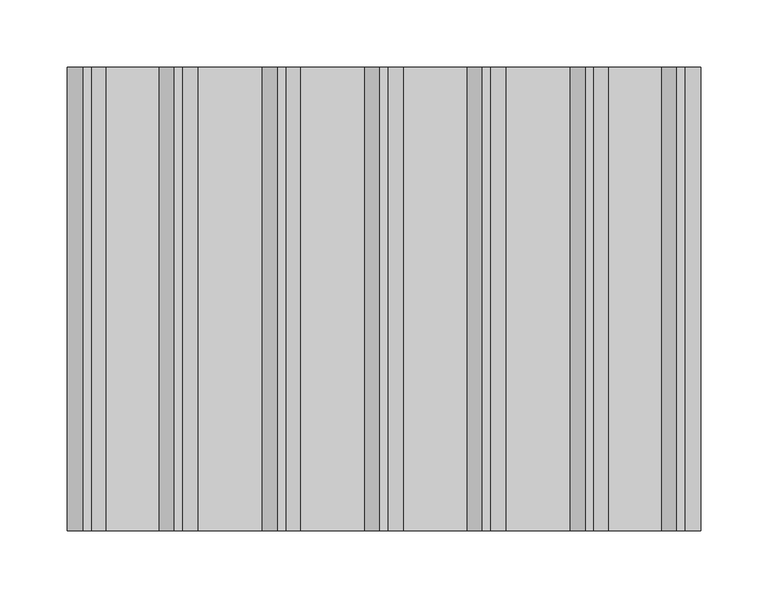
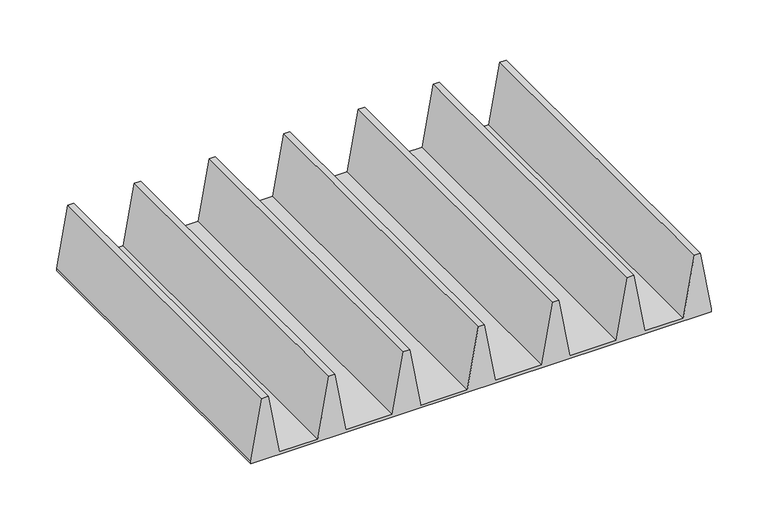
"""IFC4 building model written with IfcOpenShell, lengths in millimetres: furniture geometry."""

from ifc_helpers import new_model, si_unit, frame, origin, place, context, project, spatial, polyline, outline, extrude, source, transform, mapped, element, save


def furniture_d4a76fa6(model_context):
    return source(origin(), model_context, "Body", "SweptSolid", [
        extrude(outline(polyline([(1447.8, -234.8826517), (1447.8, 235.0173483), (1450.8261719, 235.0173483), (1514.475, 223.7943426), (1514.475, 217.4443426), (1450.8261719, 206.221337), (1450.8261719, 166.865354), (1514.475, 155.6423483), (1514.475, 149.2923483), (1450.8261719, 138.0693426), (1450.8261719, 90.665354), (1514.475, 79.4423483), (1514.475, 73.0923483), (1450.8261719, 61.8693426), (1450.8261719, 14.465354), (1514.475, 3.2423483), (1514.475, -3.1076517), (1450.8261719, -14.3306574), (1450.8261719, -61.734646), (1514.475, -72.9576517), (1514.475, -79.3076517), (1450.8261719, -90.5306574), (1450.8261719, -137.934646), (1514.475, -149.1576517), (1514.475, -155.5076517), (1450.8261719, -166.7306574), (1450.8261719, -206.0866403), (1514.475, -217.309646), (1514.475, -223.659646), (1450.8261719, -234.8826517), (1447.8, -234.8826517)])), frame((0.0, -171.831, 0.0), z_axis=(0.0, 1.0, 0.0), x_axis=(0.0, 0.0, 1.0)), (0.0, 0.0, 1.0), 343.662),
    ])


if __name__ == "__main__":
    model = new_model("IFC4")
    model_context = context("Model", 3, world=origin())
    ifc_project = project(units=[si_unit("LENGTHUNIT", "METRE", prefix="MILLI")], contexts=[model_context])
    site = spatial("IfcSite", under=ifc_project)
    building = spatial("IfcBuilding", under=site)
    placement = place(None, origin())
    furniture_shape = furniture_d4a76fa6(model_context)
    element("IfcFurniture", 1, ObjectType="HermanMiller_CoStruc_CO242_Subdivider Vane : 2 5/8\"Hx13 3/4\"D x 18 1/2\"W", at=placement, inside=building, context=model_context, shape_type="MappedRepresentation", body=[
        mapped(furniture_shape, transform((0.0, 0.0, 0.0), x_axis=(1.0, 0.0, 0.0), y_axis=(0.0, 1.0, 0.0), z_axis=(0.0, 0.0, 1.0))),
    ])
    save(model, "model.ifc")
